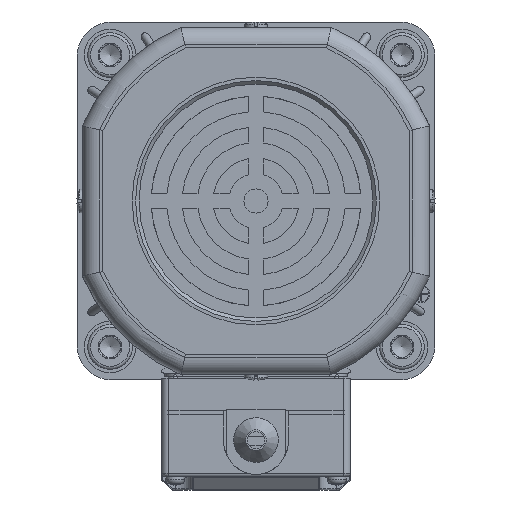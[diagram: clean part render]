
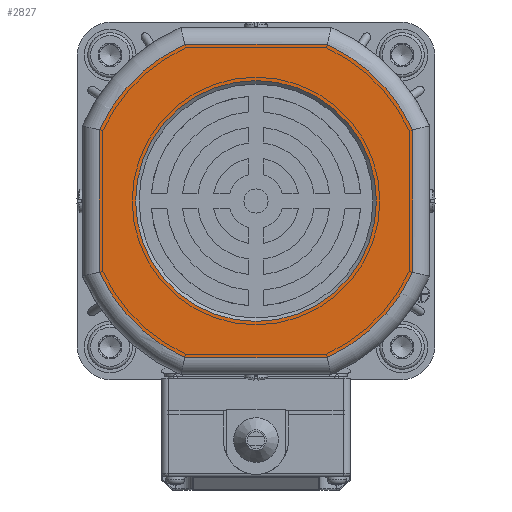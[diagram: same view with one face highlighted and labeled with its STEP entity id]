
A CAD part, left-side view. The second image highlights one B-rep face of the part: STEP entity #2827.
In plain terms, the highlighted planar face has unit normal (-1, 0, 0).
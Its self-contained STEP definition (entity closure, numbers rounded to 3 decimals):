
#1016=FACE_BOUND('',#7010,.T.);
#1017=FACE_BOUND('',#7011,.T.);
#2827=ADVANCED_FACE('',(#1016,#1017),#4135,.F.);
#4135=PLANE('',#31609);
#7010=EDGE_LOOP('',(#15474));
#7011=EDGE_LOOP('',(#15475,#15476,#15477,#15478,#15479,#15480,#15481,#15482));
#8671=LINE('',#46922,#10586);
#8672=LINE('',#46938,#10587);
#8675=LINE('',#46990,#10590);
#8676=LINE('',#47006,#10591);
#10586=VECTOR('',#36266,1.);
#10587=VECTOR('',#36269,1.);
#10590=VECTOR('',#36286,1.);
#10591=VECTOR('',#36289,1.);
#15474=ORIENTED_EDGE('',*,*,#24772,.T.);
#15475=ORIENTED_EDGE('',*,*,#24782,.T.);
#15476=ORIENTED_EDGE('',*,*,#24777,.T.);
#15477=ORIENTED_EDGE('',*,*,#24784,.T.);
#15478=ORIENTED_EDGE('',*,*,#24790,.T.);
#15479=ORIENTED_EDGE('',*,*,#24796,.T.);
#15480=ORIENTED_EDGE('',*,*,#24798,.T.);
#15481=ORIENTED_EDGE('',*,*,#24794,.T.);
#15482=ORIENTED_EDGE('',*,*,#24788,.T.);
#21485=VERTEX_POINT('',#46867);
#21490=VERTEX_POINT('',#46889);
#21491=VERTEX_POINT('',#46891);
#21493=VERTEX_POINT('',#46919);
#21496=VERTEX_POINT('',#46937);
#21497=VERTEX_POINT('',#46953);
#21500=VERTEX_POINT('',#46971);
#21501=VERTEX_POINT('',#46987);
#21504=VERTEX_POINT('',#47005);
#24772=EDGE_CURVE('',#21485,#21485,#29216,.T.);
#24777=EDGE_CURVE('',#21491,#21490,#29220,.T.);
#24782=EDGE_CURVE('',#21493,#21491,#8671,.T.);
#24784=EDGE_CURVE('',#21490,#21496,#8672,.T.);
#24788=EDGE_CURVE('',#21497,#21493,#29223,.T.);
#24790=EDGE_CURVE('',#21496,#21500,#29224,.T.);
#24794=EDGE_CURVE('',#21501,#21497,#8675,.T.);
#24796=EDGE_CURVE('',#21500,#21504,#8676,.T.);
#24798=EDGE_CURVE('',#21504,#21501,#29226,.T.);
#29216=CIRCLE('',#31347,35.);
#29220=CIRCLE('',#31353,50.);
#29223=CIRCLE('',#31359,50.);
#29224=CIRCLE('',#31361,50.);
#29226=CIRCLE('',#31366,50.);
#31347=AXIS2_PLACEMENT_3D('',#46866,#36247,#36248);
#31353=AXIS2_PLACEMENT_3D('',#46890,#36259,#36260);
#31359=AXIS2_PLACEMENT_3D('',#46956,#36275,#36276);
#31361=AXIS2_PLACEMENT_3D('',#46972,#36279,#36280);
#31366=AXIS2_PLACEMENT_3D('',#47009,#36293,#36294);
#31609=AXIS2_PLACEMENT_3D('',#47758,#36971,#36972);
#36247=DIRECTION('',(1.,0.,0.));
#36248=DIRECTION('',(0.,-1.,0.));
#36259=DIRECTION('',(-1.,0.,0.));
#36260=DIRECTION('',(0.,0.,1.));
#36266=DIRECTION('',(0.,-1.,0.));
#36269=DIRECTION('',(0.,0.,1.));
#36275=DIRECTION('',(-1.,0.,0.));
#36276=DIRECTION('',(0.,0.,1.));
#36279=DIRECTION('',(-1.,0.,0.));
#36280=DIRECTION('',(0.,0.,1.));
#36286=DIRECTION('',(0.,0.,-1.));
#36289=DIRECTION('',(0.,1.,0.));
#36293=DIRECTION('',(-1.,0.,0.));
#36294=DIRECTION('',(0.,0.,1.));
#36971=DIRECTION('',(1.,0.,0.));
#36972=DIRECTION('',(0.,0.,1.));
#46866=CARTESIAN_POINT('',(-269.8,-120.671,-58.491));
#46867=CARTESIAN_POINT('',(-269.8,-155.671,-58.491));
#46889=CARTESIAN_POINT('',(-269.8,-166.171,-79.221));
#46890=CARTESIAN_POINT('',(-269.8,-120.671,-58.491));
#46891=CARTESIAN_POINT('',(-269.8,-141.402,-103.991));
#46919=CARTESIAN_POINT('',(-269.8,-99.941,-103.991));
#46922=CARTESIAN_POINT('',(-269.8,-142.46,-103.991));
#46937=CARTESIAN_POINT('',(-269.8,-166.171,-37.76));
#46938=CARTESIAN_POINT('',(-269.8,-166.171,-36.702));
#46953=CARTESIAN_POINT('',(-269.8,-75.171,-79.221));
#46956=CARTESIAN_POINT('',(-269.8,-120.671,-58.491));
#46971=CARTESIAN_POINT('',(-269.8,-141.402,-12.991));
#46972=CARTESIAN_POINT('',(-269.8,-120.671,-58.491));
#46987=CARTESIAN_POINT('',(-269.8,-75.171,-37.76));
#46990=CARTESIAN_POINT('',(-269.8,-75.171,-80.28));
#47005=CARTESIAN_POINT('',(-269.8,-99.941,-12.991));
#47006=CARTESIAN_POINT('',(-269.8,-98.882,-12.991));
#47009=CARTESIAN_POINT('',(-269.8,-120.671,-58.491));
#47758=CARTESIAN_POINT('',(-269.8,-120.671,-58.491));
